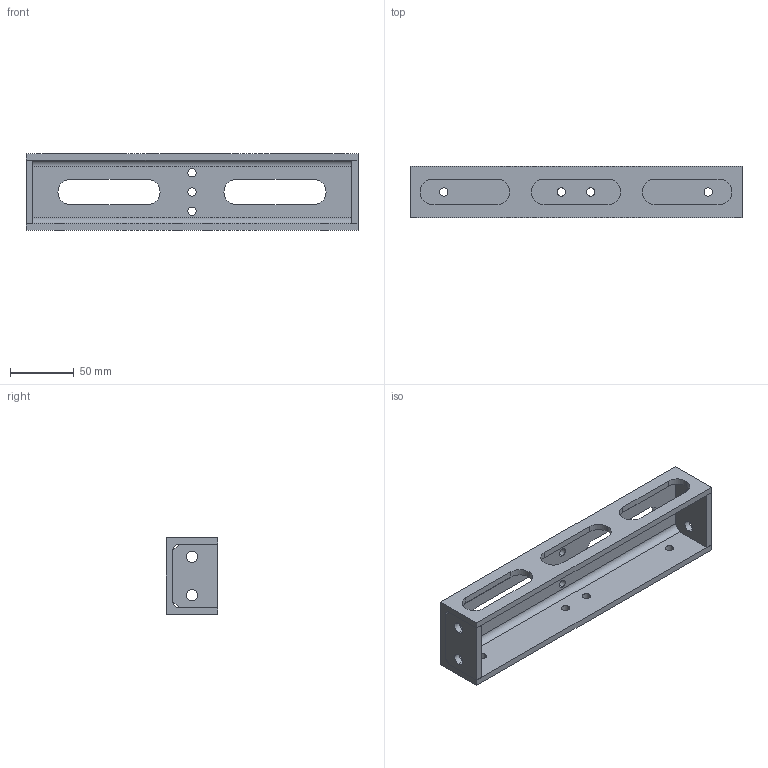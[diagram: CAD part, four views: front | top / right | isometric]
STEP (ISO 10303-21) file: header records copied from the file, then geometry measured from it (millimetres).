
FILE_DESCRIPTION (( 'STEP AP214' ), '1' );
FILE_NAME ('ÂØÀÅ.301343.019 Ïåðåìû÷êà.STEP', '2024-04-17T12:44:05', ( '' ), ( '' ), 'SwSTEP 2.0', 'SolidWorks 2019', '' );
FILE_SCHEMA (( 'AUTOMOTIVE_DESIGN' ));
Length unit declared in the file: millimetre
Products named in the file (3): 贅斃.741124.122 砑僔蠂縺; 贅斃.746212.004 盷謥檞癰趌260; ÂØÀÅ.301343.019 Ïåðåìû÷êà
Assembly tree (3 placements, depth 2):
  ÂØÀÅ.301343.019 Ïåðåìû÷êà
    贅斃.746212.004 盷謥檞癰趌260
    贅斃.741124.122 砑僔蠂縺  x2
Bounding box: 260 x 40 x 60 mm (x, y, z)
Volume: 151752.1 mm3; surface area: 69582.9 mm2
Topology: 3 solids, 3 shells, 73 faces, 204 edges, 134 vertices
Faces by surface type: cylinder 37, plane 36
Entity records: 2180 total; most frequent: DIRECTION 374, CARTESIAN_POINT 355, ORIENTED_EDGE 348, EDGE_CURVE 174, AXIS2_PLACEMENT_3D 133, VERTEX_POINT 114, VECTOR 108, LINE 108
